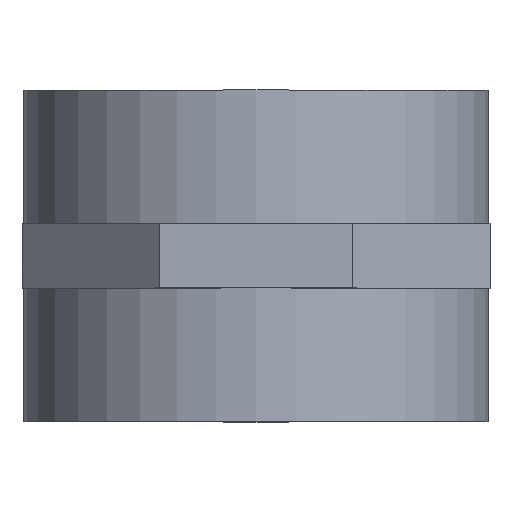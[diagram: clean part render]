
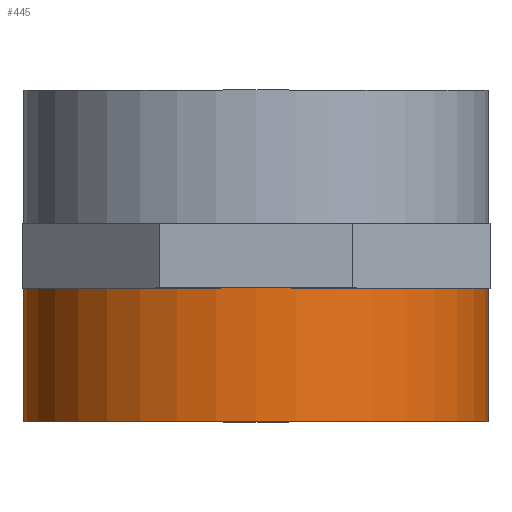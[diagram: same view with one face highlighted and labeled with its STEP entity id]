
A CAD part, top view. The second image highlights one B-rep face of the part: STEP entity #445.
In plain terms, the highlighted cylindrical face has radius 64.5 mm (diameter 129 mm), a full revolution.
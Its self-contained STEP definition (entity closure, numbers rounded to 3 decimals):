
#75=CYLINDRICAL_SURFACE('',#470,64.5);
#83=FACE_BOUND('',#151,.T.);
#87=CIRCLE('',#455,64.5);
#90=CIRCLE('',#469,64.5);
#116=FACE_OUTER_BOUND('',#150,.T.);
#150=EDGE_LOOP('',(#398));
#151=EDGE_LOOP('',(#399));
#214=VERTEX_POINT('',#14021);
#225=VERTEX_POINT('',#14062);
#266=EDGE_CURVE('',#214,#214,#87,.T.);
#285=EDGE_CURVE('',#225,#225,#90,.T.);
#398=ORIENTED_EDGE('',*,*,#266,.T.);
#399=ORIENTED_EDGE('',*,*,#285,.F.);
#445=ADVANCED_FACE('',(#116,#83),#75,.T.);
#455=AXIS2_PLACEMENT_3D('',#14022,#494,#495);
#469=AXIS2_PLACEMENT_3D('',#14063,#538,#539);
#470=AXIS2_PLACEMENT_3D('',#14064,#540,#541);
#494=DIRECTION('center_axis',(0.,-1.,0.));
#495=DIRECTION('ref_axis',(1.,0.,0.));
#538=DIRECTION('center_axis',(0.,-1.,0.));
#539=DIRECTION('ref_axis',(1.,0.,0.));
#540=DIRECTION('center_axis',(0.,1.,0.));
#541=DIRECTION('ref_axis',(1.,0.,0.));
#14021=CARTESIAN_POINT('',(-64.5,-9.,0.));
#14022=CARTESIAN_POINT('Origin',(0.,-9.,0.));
#14062=CARTESIAN_POINT('',(-64.5,-46.,0.));
#14063=CARTESIAN_POINT('Origin',(0.,-46.,0.));
#14064=CARTESIAN_POINT('Origin',(0.,0.,0.));
